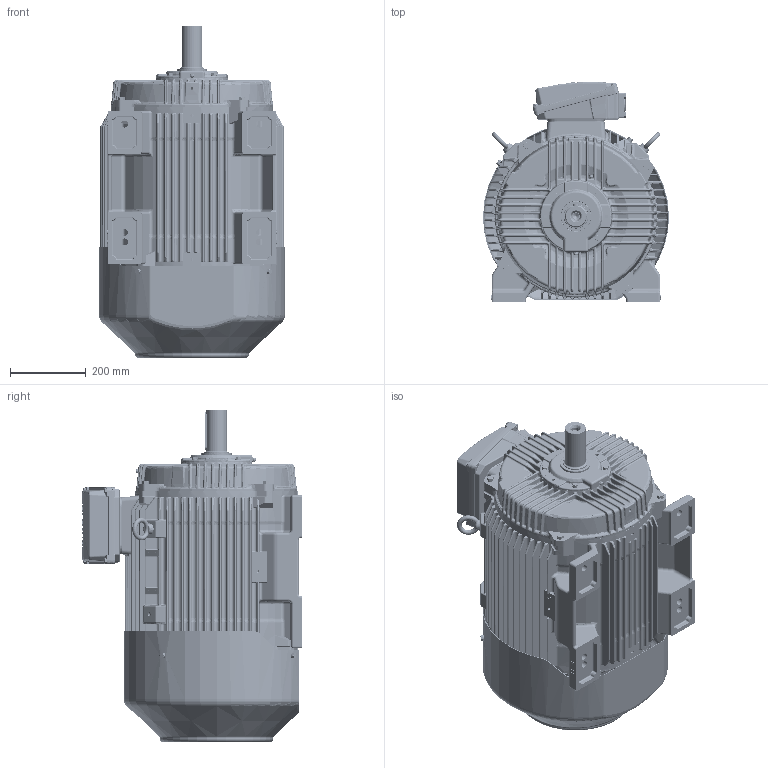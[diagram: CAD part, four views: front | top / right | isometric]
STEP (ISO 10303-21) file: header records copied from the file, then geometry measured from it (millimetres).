
FILE_DESCRIPTION (( 'STEP AP203' ), '1' );
FILE_NAME ('0222500854_RevA.STEP', '2023-06-14T10:27:50', ( '' ), ( '' ), 'SwSTEP 2.0', 'SolidWorks 2021', '' );
FILE_SCHEMA (( 'CONFIG_CONTROL_DESIGN' ));
Length unit declared in the file: inch
Products named in the file (1): 0222500854_RevA
Bounding box: 491 x 579.4 x 876.5 mm (x, y, z)
Volume: 11190516.7 mm3; surface area: 5310812.4 mm2
Topology: 60 solids, 61 shells, 11725 faces, 29338 edges, 17546 vertices
Faces by surface type: cylinder 3519, bspline 3116, plane 2261, torus 1381, cone 1146, sphere 302
Entity records: 467167 total; most frequent: CARTESIAN_POINT 210365, ORIENTED_EDGE 57950, DIRECTION 49759, EDGE_CURVE 28975, AXIS2_PLACEMENT_3D 20653, VERTEX_POINT 17515, EDGE_LOOP 12670, CIRCLE 12043
